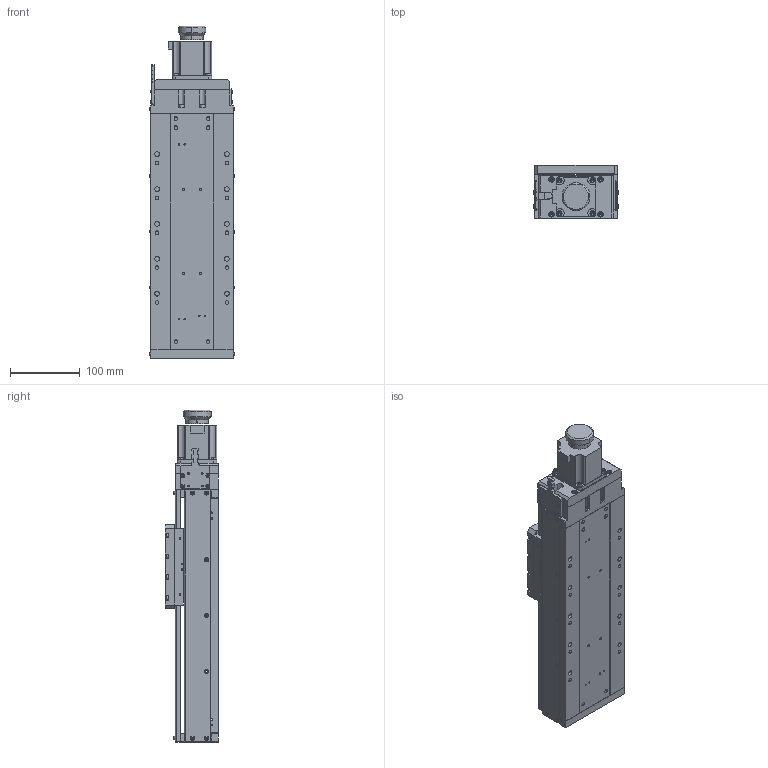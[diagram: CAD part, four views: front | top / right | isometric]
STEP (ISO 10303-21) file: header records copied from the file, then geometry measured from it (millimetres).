
FILE_DESCRIPTION (( 'STEP AP203' ), '1' );
FILE_NAME ('PA150-C.step', '2019-05-06T08:16:46', ( '' ), ( '' ), 'SwSTEP 2.0', 'SolidWorks 2017', '' );
FILE_SCHEMA (( 'CONFIG_CONTROL_DESIGN' ));
Length unit declared in the file: millimetre
Products named in the file (1): PA150-C
Bounding box: 121.3 x 76.5 x 475.5 mm (x, y, z)
Surface area: 306825.2 mm2 (no closed solid volume)
Topology: 0 solids, 91 shells, 1017 faces, 3441 edges, 2445 vertices
Faces by surface type: plane 618, cylinder 267, sphere 52, torus 40, cone 40
Entity records: 37402 total; most frequent: CARTESIAN_POINT 6954, DIRECTION 6544, ORIENTED_EDGE 5393, EDGE_CURVE 3405, VERTEX_POINT 2445, LINE 2290, VECTOR 2290, AXIS2_PLACEMENT_3D 2127
